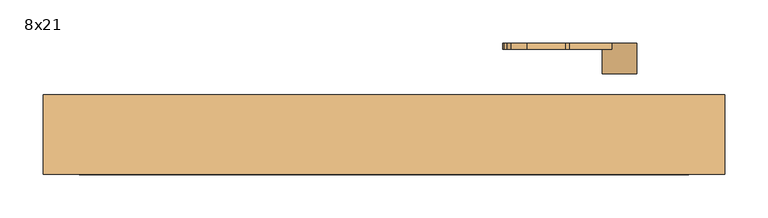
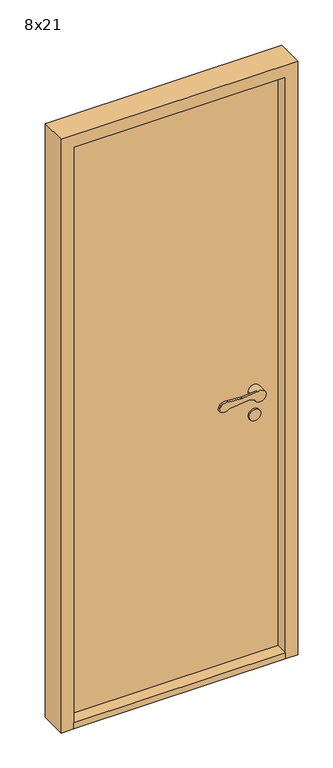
"""IFC4 building model written with IfcOpenShell, lengths in millimetres: door geometry, Innerdør Slett (Diplomat) : 8x21."""

from ifc_helpers import new_model, si_unit, point, frame, frame_2d, origin, origin_with_axes, place, context, project, spatial, polyline, circle_curve, trimmed, segment, composite_curve, outline, extrude, source, transform, mapped, element, save
from ifc_brep_helpers import plane_surface, cylinder_surface, revolved_surface, advanced_brep


def door_8x21_60cf5580(model_context):
    return source(origin(), model_context, "Body", "SolidModel", [
        advanced_brep(
        [(293.9611305, -45.0, 949.1175955), (308.3841161, -45.0, 942.6204086), (346.379633, -45.0, 951.3474568), (317.2687793, -45.0, 969.1517356), (268.6891233, -45.0, 964.26032), (263.6202158, -45.0, 964.1804415), (218.8963175, -45.0, 967.2639242), (200.3175669, -45.0, 964.8810513), (195.505009, -45.0, 959.9624074), (191.8691983, -45.0, 951.8913379), (196.721536, -45.0, 938.7393398), (226.0476109, -45.0, 943.6260011), (288.8520664, -45.0, 949.9496913), (268.6891233, -37.8915284, 964.26032), (317.2687793, -37.8915284, 969.1517356), (306.379633, -37.8915284, 951.3474568), (308.3841161, -37.8915284, 942.6204086), (293.9611305, -37.8915284, 949.1175955), (288.8520664, -37.8915284, 949.9496913), (226.0476109, -37.8915284, 943.6260011), (196.721536, -37.8915284, 938.7393398), (191.8691983, -37.8915284, 951.8913379), (195.505009, -37.8915284, 959.9624074), (200.3175669, -37.8915284, 964.8810513), (218.8963175, -37.8915284, 967.2639242), (263.6202158, -37.8915284, 964.1804415), (346.379633, -10.0, 951.3474568), (306.379633, -10.0, 951.3474568)],
        [
            (0, 1),
            (1, 2, circle_curve(frame((326.379633, -45.0, 951.3474568), z_axis=(0.0, -1.0, 0.0), x_axis=(-1.0, 0.0, 0.0)), 20.0)),
            (2, 3, circle_curve(frame((326.379633, -45.0, 951.3474568), z_axis=(0.0, -1.0, 0.0), x_axis=(-1.0, 0.0, 0.0)), 20.0)),
            (3, 4),
            (4, 5, circle_curve(frame((265.683663, -45.0, 994.1093938), z_axis=(0.0, 1.0, 0.0), x_axis=(-0.9949691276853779, 0.0, -0.10018200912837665)), 30.0)),
            (5, 6),
            (6, 7, circle_curve(frame((213.2326797, -45.0, 937.8033877), z_axis=(0.0, -1.0, 0.0), x_axis=(-0.9949691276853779, 0.0, -0.10018200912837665)), 30.0)),
            (7, 8, circle_curve(frame((204.6226045, -45.0, 955.8551634), z_axis=(0.0, -1.0, 0.0), x_axis=(-0.9949691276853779, 0.0, -0.10018200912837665)), 10.0)),
            (8, 9),
            (9, 10, circle_curve(frame((200.9867937, -45.0, 947.7840939), z_axis=(0.0, -1.0, 0.0), x_axis=(-0.9949691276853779, 0.0, -0.10018200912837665)), 10.0)),
            (10, 11, circle_curve(frame((207.8569644, -45.0, 962.352734), z_axis=(0.0, -1.0, 0.0), x_axis=(-0.9949691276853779, 0.0, -0.10018200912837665)), 26.1072815)),
            (11, 12),
            (12, 0, circle_curve(frame((289.8538865, -45.0, 940.0), z_axis=(0.0, 1.0, 0.0), x_axis=(-0.9949691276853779, 0.0, -0.10018200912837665)), 10.0)),
            (13, 14),
            (14, 15, circle_curve(frame((326.379633, -37.8915284, 951.3474568), z_axis=(0.0, -1.0, 0.0), x_axis=(-1.0, 0.0, 0.0)), 20.0)),
            (15, 16, circle_curve(frame((326.379633, -37.8915284, 951.3474568), z_axis=(0.0, -1.0, 0.0), x_axis=(-1.0, 0.0, 0.0)), 20.0)),
            (16, 17),
            (17, 18, circle_curve(frame((289.8538865, -37.8915284, 940.0), z_axis=(0.0, -1.0, 0.0), x_axis=(-0.9949691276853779, 0.0, -0.10018200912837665)), 10.0)),
            (18, 19),
            (19, 20, circle_curve(frame((207.8569644, -37.8915284, 962.352734), z_axis=(0.0, 1.0, 0.0), x_axis=(-0.9949691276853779, 0.0, -0.10018200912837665)), 26.1072815)),
            (20, 21, circle_curve(frame((200.9867937, -37.8915284, 947.7840939), z_axis=(0.0, 1.0, 0.0), x_axis=(-0.9949691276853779, 0.0, -0.10018200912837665)), 10.0)),
            (21, 22),
            (22, 23, circle_curve(frame((204.6226045, -37.8915284, 955.8551634), z_axis=(0.0, 1.0, 0.0), x_axis=(-0.9949691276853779, 0.0, -0.10018200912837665)), 10.0)),
            (23, 24, circle_curve(frame((213.2326797, -37.8915284, 937.8033877), z_axis=(0.0, 1.0, 0.0), x_axis=(-0.9949691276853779, 0.0, -0.10018200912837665)), 30.0)),
            (24, 25),
            (25, 13, circle_curve(frame((265.683663, -37.8915284, 994.1093938), z_axis=(0.0, -1.0, 0.0), x_axis=(-0.9949691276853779, 0.0, -0.10018200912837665)), 30.0)),
            (3, 14),
            (13, 4),
            (16, 1),
            (0, 17),
            (12, 18),
            (11, 19),
            (10, 20),
            (9, 21),
            (8, 22),
            (7, 23),
            (6, 24),
            (5, 25),
            (26, 27, circle_curve(frame((326.379633, -10.0, 951.3474568), z_axis=(0.0, 1.0, 0.0), x_axis=(-1.0, 0.0, 0.0)), 20.0)),
            (27, 26, circle_curve(frame((326.379633, -10.0, 951.3474568), z_axis=(0.0, 1.0, 0.0), x_axis=(-1.0, 0.0, 0.0)), 20.0)),
            (26, 2),
            (15, 27),
        ],
        [
            plane_surface(frame((317.6960588, -45.0, 969.1947577), z_axis=(0.0, -1.0000000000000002, 0.0), x_axis=(0.9949691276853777, 0.0, 0.10018200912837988))),
            plane_surface(frame((317.6960588, -37.8915284, 969.1947577), z_axis=(0.0, 1.0000000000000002, 0.0), x_axis=(-0.9949691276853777, 0.0, -0.10018200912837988))),
            plane_surface(frame((268.6891233, -45.0, 964.26032), z_axis=(-0.10018200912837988, 0.0, 0.9949691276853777), x_axis=(0.0, 1.0, 0.0))),
            plane_surface(frame((326.9687366, -45.0, 934.2485115), z_axis=(-0.41072439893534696, 0.0, -0.91175954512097), x_axis=(0.0, 1.0, 0.0))),
            revolved_surface(polyline([(279.9041952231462, -37.8915284, 938.9981799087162), (279.9041952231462, -45.0, 938.9981799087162)]), (289.8538865, -37.8915284, 940.0), (0.0, 1.0, 0.0)),
            plane_surface(frame((288.8520664, -45.0, 949.9496913), z_axis=(0.10018200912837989, 0.0, -0.9949691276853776), x_axis=(0.0, 1.0, 0.0))),
            cylinder_surface(frame((207.8569644, -37.8915284, 962.352734), z_axis=(0.0, -1.0, 0.0), x_axis=(-0.9949691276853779, 0.0, -0.10018200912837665)), 26.1072815),
            cylinder_surface(frame((200.9867937, -37.8915284, 947.7840939), z_axis=(0.0, -1.0, 0.0), x_axis=(-0.9949691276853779, 0.0, -0.10018200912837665)), 10.0),
            plane_surface(frame((191.8691983, -45.0, 951.8913379), z_axis=(-0.9117595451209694, 0.0, 0.41072439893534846), x_axis=(0.0, 1.0, 0.0))),
            cylinder_surface(frame((204.6226045, -37.8915284, 955.8551634), z_axis=(0.0, -1.0, 0.0), x_axis=(-0.9949691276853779, 0.0, -0.10018200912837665)), 10.0),
            cylinder_surface(frame((213.2326797, -37.8915284, 937.8033877), z_axis=(0.0, -1.0, 0.0), x_axis=(-0.9949691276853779, 0.0, -0.10018200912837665)), 30.0),
            plane_surface(frame((218.8963175, -45.0, 967.2639242), z_axis=(0.06878157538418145, 0.0, 0.9976317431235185), x_axis=(0.0, 1.0, 0.0))),
            revolved_surface(polyline([(235.8345891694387, -37.8915284, 991.1039335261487), (235.8345891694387, -45.0, 991.1039335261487)]), (265.683663, -37.8915284, 994.1093938), (0.0, 1.0, 0.0)),
            plane_surface(frame((306.379633, -10.0, 951.3474568), z_axis=(0.0, 1.0, 0.0), x_axis=(0.0, 0.0, -1.0))),
            cylinder_surface(frame((326.379633, -10.0, 951.3474568), z_axis=(0.0, -1.0, 0.0), x_axis=(-1.0, 0.0, 0.0)), 20.0),
        ],
        [
            (0, [[1, 2, 3, 4, 5, 6, 7, 8, 9, 10, 11, 12, 13]]),
            (1, [[14, 15, 16, 17, 18, 19, 20, 21, 22, 23, 24, 25, 26]]),
            (2, [[-4, 27, -14, 28]]),
            (3, [[-17, 29, -1, 30]]),
            (4, [[31, -18, -30, -13]]),
            (5, [[32, -19, -31, -12]]),
            (6, [[33, -20, -32, -11]]),
            (7, [[34, -21, -33, -10]]),
            (8, [[35, -22, -34, -9]]),
            (9, [[36, -23, -35, -8]]),
            (10, [[37, -24, -36, -7]]),
            (11, [[38, -25, -37, -6]]),
            (12, [[-28, -26, -38, -5]]),
            (13, [[39, 40]]),
            (14, [[41, -2, -29, -16, 42, -39]]),
            (14, [[-42, -15, -27, -3, -41, -40]]),
        ],
    ),
        extrude(outline(composite_curve([segment(trimmed(circle_curve(frame_2d((866.3474568, 326.379633)), 20.0), [point((866.3474568, 346.379633))], [point((866.3474568, 306.379633))], False, "CARTESIAN"), True, "CONTINUOUS"), segment(trimmed(circle_curve(frame_2d((866.3474568, 326.379633)), 20.0), [point((866.3474568, 306.379633))], [point((866.3474568, 346.379633))], False, "CARTESIAN"), True, "CONTINUOUS")], self_intersect=False)), frame((0.0, -15.0, 0.0), z_axis=(0.0, 1.0, 0.0), x_axis=(0.0, 0.0, 1.0)), (0.0, 0.0, 1.0), 5.0),
        advanced_brep(
        [(293.9611305, 100.0, 949.1175955), (288.8520664, 100.0, 949.9496913), (226.0476109, 100.0, 943.6260011), (196.721536, 100.0, 938.7393398), (191.8691983, 100.0, 951.8913379), (195.505009, 100.0, 959.9624074), (200.3175669, 100.0, 964.8810513), (218.8963175, 100.0, 967.2639242), (263.6202158, 100.0, 964.1804415), (268.6891233, 100.0, 964.26032), (317.2687793, 100.0, 969.1517356), (346.379633, 100.0, 951.3474568), (308.3841161, 100.0, 942.6204086), (268.6891233, 92.8915284, 964.26032), (263.6202158, 92.8915284, 964.1804415), (218.8963175, 92.8915284, 967.2639242), (200.3175669, 92.8915284, 964.8810513), (195.505009, 92.8915284, 959.9624074), (191.8691983, 92.8915284, 951.8913379), (196.721536, 92.8915284, 938.7393398), (226.0476109, 92.8915284, 943.6260011), (288.8520664, 92.8915284, 949.9496913), (293.9611305, 92.8915284, 949.1175955), (308.3841161, 92.8915284, 942.6204086), (306.379633, 92.8915284, 951.3474568), (317.2687793, 92.8915284, 969.1517356), (346.379633, 65.0, 951.3474568), (306.379633, 65.0, 951.3474568)],
        [
            (0, 1, circle_curve(frame((289.8538865, 100.0, 940.0), z_axis=(0.0, -1.0, 0.0), x_axis=(-0.9949691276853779, 0.0, -0.10018200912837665)), 10.0)),
            (1, 2),
            (2, 3, circle_curve(frame((207.8569644, 100.0, 962.352734), z_axis=(0.0, 1.0, 0.0), x_axis=(-0.9949691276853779, 0.0, -0.10018200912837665)), 26.1072815)),
            (3, 4, circle_curve(frame((200.9867937, 100.0, 947.7840939), z_axis=(0.0, 1.0, 0.0), x_axis=(-0.9949691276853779, 0.0, -0.10018200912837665)), 10.0)),
            (4, 5),
            (5, 6, circle_curve(frame((204.6226045, 100.0, 955.8551634), z_axis=(0.0, 1.0, 0.0), x_axis=(-0.9949691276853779, 0.0, -0.10018200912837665)), 10.0)),
            (6, 7, circle_curve(frame((213.2326797, 100.0, 937.8033877), z_axis=(0.0, 1.0, 0.0), x_axis=(-0.9949691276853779, 0.0, -0.10018200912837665)), 30.0)),
            (7, 8),
            (8, 9, circle_curve(frame((265.683663, 100.0, 994.1093938), z_axis=(0.0, -1.0, 0.0), x_axis=(-0.9949691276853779, 0.0, -0.10018200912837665)), 30.0)),
            (9, 10),
            (10, 11, circle_curve(frame((326.379633, 100.0, 951.3474568), z_axis=(0.0, 1.0, 0.0), x_axis=(-1.0, 0.0, 0.0)), 20.0)),
            (11, 12, circle_curve(frame((326.379633, 100.0, 951.3474568), z_axis=(0.0, 1.0, 0.0), x_axis=(-1.0, 0.0, 0.0)), 20.0)),
            (12, 0),
            (13, 14, circle_curve(frame((265.683663, 92.8915284, 994.1093938), z_axis=(0.0, 1.0, 0.0), x_axis=(-0.9949691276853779, 0.0, -0.10018200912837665)), 30.0)),
            (14, 15),
            (15, 16, circle_curve(frame((213.2326797, 92.8915284, 937.8033877), z_axis=(0.0, -1.0, 0.0), x_axis=(-0.9949691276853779, 0.0, -0.10018200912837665)), 30.0)),
            (16, 17, circle_curve(frame((204.6226045, 92.8915284, 955.8551634), z_axis=(0.0, -1.0, 0.0), x_axis=(-0.9949691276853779, 0.0, -0.10018200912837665)), 10.0)),
            (17, 18),
            (18, 19, circle_curve(frame((200.9867937, 92.8915284, 947.7840939), z_axis=(0.0, -1.0, 0.0), x_axis=(-0.9949691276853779, 0.0, -0.10018200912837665)), 10.0)),
            (19, 20, circle_curve(frame((207.8569644, 92.8915284, 962.352734), z_axis=(0.0, -1.0, 0.0), x_axis=(-0.9949691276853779, 0.0, -0.10018200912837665)), 26.1072815)),
            (20, 21),
            (21, 22, circle_curve(frame((289.8538865, 92.8915284, 940.0), z_axis=(0.0, 1.0, 0.0), x_axis=(-0.9949691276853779, 0.0, -0.10018200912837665)), 10.0)),
            (22, 23),
            (23, 24, circle_curve(frame((326.379633, 92.8915284, 951.3474568), z_axis=(0.0, 1.0, 0.0), x_axis=(-1.0, 0.0, 0.0)), 20.0)),
            (24, 25, circle_curve(frame((326.379633, 92.8915284, 951.3474568), z_axis=(0.0, 1.0, 0.0), x_axis=(-1.0, 0.0, 0.0)), 20.0)),
            (25, 13),
            (9, 13),
            (25, 10),
            (22, 0),
            (12, 23),
            (21, 1),
            (20, 2),
            (19, 3),
            (18, 4),
            (17, 5),
            (16, 6),
            (15, 7),
            (14, 8),
            (26, 27, circle_curve(frame((326.379633, 65.0, 951.3474568), z_axis=(0.0, -1.0, 0.0), x_axis=(-1.0, 0.0, 0.0)), 20.0)),
            (27, 26, circle_curve(frame((326.379633, 65.0, 951.3474568), z_axis=(0.0, -1.0, 0.0), x_axis=(-1.0, 0.0, 0.0)), 20.0)),
            (27, 24),
            (11, 26),
        ],
        [
            plane_surface(frame((317.6960588, 100.0, 969.1947577), z_axis=(0.0, 1.0000000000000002, 0.0), x_axis=(0.9949691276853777, 0.0, 0.10018200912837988))),
            plane_surface(frame((317.6960588, 92.8915284, 969.1947577), z_axis=(0.0, -1.0000000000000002, 0.0), x_axis=(-0.9949691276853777, 0.0, -0.10018200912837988))),
            plane_surface(frame((268.6891233, 100.0, 964.26032), z_axis=(-0.10018200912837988, 0.0, 0.9949691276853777), x_axis=(0.0, -1.0, 0.0))),
            plane_surface(frame((326.9687366, 100.0, 934.2485115), z_axis=(-0.41072439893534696, 0.0, -0.91175954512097), x_axis=(0.0, -1.0, 0.0))),
            revolved_surface(polyline([(279.9041952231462, 92.8915284, 938.9981799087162), (279.9041952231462, 100.0, 938.9981799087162)]), (289.8538865, 92.8915284, 940.0), (0.0, -1.0, 0.0)),
            plane_surface(frame((288.8520664, 100.0, 949.9496913), z_axis=(0.10018200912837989, 0.0, -0.9949691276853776), x_axis=(0.0, -1.0, 0.0))),
            cylinder_surface(frame((207.8569644, 92.8915284, 962.352734), z_axis=(0.0, 1.0, 0.0), x_axis=(-0.9949691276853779, 0.0, -0.10018200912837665)), 26.1072815),
            cylinder_surface(frame((200.9867937, 92.8915284, 947.7840939), z_axis=(0.0, 1.0, 0.0), x_axis=(-0.9949691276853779, 0.0, -0.10018200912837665)), 10.0),
            plane_surface(frame((191.8691983, 100.0, 951.8913379), z_axis=(-0.9117595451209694, 0.0, 0.41072439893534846), x_axis=(0.0, -1.0, 0.0))),
            cylinder_surface(frame((204.6226045, 92.8915284, 955.8551634), z_axis=(0.0, 1.0, 0.0), x_axis=(-0.9949691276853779, 0.0, -0.10018200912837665)), 10.0),
            cylinder_surface(frame((213.2326797, 92.8915284, 937.8033877), z_axis=(0.0, 1.0, 0.0), x_axis=(-0.9949691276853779, 0.0, -0.10018200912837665)), 30.0),
            plane_surface(frame((218.8963175, 100.0, 967.2639242), z_axis=(0.06878157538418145, 0.0, 0.9976317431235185), x_axis=(0.0, -1.0, 0.0))),
            revolved_surface(polyline([(235.8345891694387, 92.8915284, 991.1039335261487), (235.8345891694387, 100.0, 991.1039335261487)]), (265.683663, 92.8915284, 994.1093938), (0.0, -1.0, 0.0)),
            plane_surface(frame((306.379633, 65.0, 951.3474568), z_axis=(0.0, -1.0, 0.0), x_axis=(0.0, 0.0, -1.0))),
            cylinder_surface(frame((326.379633, 65.0, 951.3474568), z_axis=(0.0, 1.0, 0.0), x_axis=(-1.0, 0.0, 0.0)), 20.0),
        ],
        [
            (0, [[1, 2, 3, 4, 5, 6, 7, 8, 9, 10, 11, 12, 13]]),
            (1, [[14, 15, 16, 17, 18, 19, 20, 21, 22, 23, 24, 25, 26]]),
            (2, [[27, -26, 28, -10]]),
            (3, [[29, -13, 30, -23]]),
            (4, [[-1, -29, -22, 31]]),
            (5, [[-2, -31, -21, 32]]),
            (6, [[-3, -32, -20, 33]]),
            (7, [[-4, -33, -19, 34]]),
            (8, [[-5, -34, -18, 35]]),
            (9, [[-6, -35, -17, 36]]),
            (10, [[-7, -36, -16, 37]]),
            (11, [[-8, -37, -15, 38]]),
            (12, [[-9, -38, -14, -27]]),
            (13, [[39, 40]]),
            (14, [[-40, 41, -24, -30, -12, 42]]),
            (14, [[-39, -42, -11, -28, -25, -41]]),
        ],
    ),
        extrude(outline(composite_curve([segment(trimmed(circle_curve(frame_2d((866.3474568, 326.379633)), 20.0), [point((866.3474568, 346.379633))], [point((866.3474568, 306.379633))], False, "CARTESIAN"), True, "CONTINUOUS"), segment(trimmed(circle_curve(frame_2d((866.3474568, 326.379633)), 20.0), [point((866.3474568, 306.379633))], [point((866.3474568, 346.379633))], False, "CARTESIAN"), True, "CONTINUOUS")], self_intersect=False)), frame((0.0, 65.0, 0.0), z_axis=(0.0, 1.0, 0.0), x_axis=(0.0, 0.0, 1.0)), (0.0, 0.0, 1.0), 5.0),
        extrude(outline(polyline([(406.379633, -52.0), (-299.620367, -52.0), (-299.620367, 40.0), (406.379633, 40.0), (406.379633, -52.0)])), origin_with_axes(), (0.0, 0.0, 1.0), 22.0),
        extrude(outline(polyline([(406.379633, -10.0), (-299.620367, -10.0), (-299.620367, 40.0), (406.379633, 40.0), (406.379633, -10.0)])), frame((0.0, 0.0, 22.0), z_axis=(0.0, 0.0, 1.0), x_axis=(1.0, 0.0, 0.0)), (0.0, 0.0, 1.0), 2031.0),
        extrude(outline(polyline([(0.0, -341.620367), (0.0, -299.620367), (2053.0, -299.620367), (2053.0, 406.379633), (0.0, 406.379633), (0.0, 448.379633), (2095.0, 448.379633), (2095.0, -341.620367), (0.0, -341.620367)])), frame((0.0, -52.0, 0.0), z_axis=(0.0, 1.0, 0.0), x_axis=(0.0, 0.0, 1.0)), (0.0, 0.0, 1.0), 92.0),
    ])


if __name__ == "__main__":
    model = new_model("IFC4")
    model_context = context("Model", 3, world=origin())
    ifc_project = project(units=[si_unit("LENGTHUNIT", "METRE", prefix="MILLI")], contexts=[model_context])
    site = spatial("IfcSite", under=ifc_project)
    building = spatial("IfcBuilding", under=site)
    placement = place(None, origin())
    door_8x21_shape = door_8x21_60cf5580(model_context)
    element("IfcDoor", 1, ObjectType="Innerdør Slett (Diplomat) : 8x21", at=placement, inside=building, context=model_context, shape_type="MappedRepresentation", body=[
        mapped(door_8x21_shape, transform((0.0, 0.0, 0.0), x_axis=(1.0, 0.0, 0.0), y_axis=(0.0, 1.0, 0.0), z_axis=(0.0, 0.0, 1.0))),
    ])
    save(model, "model.ifc")
